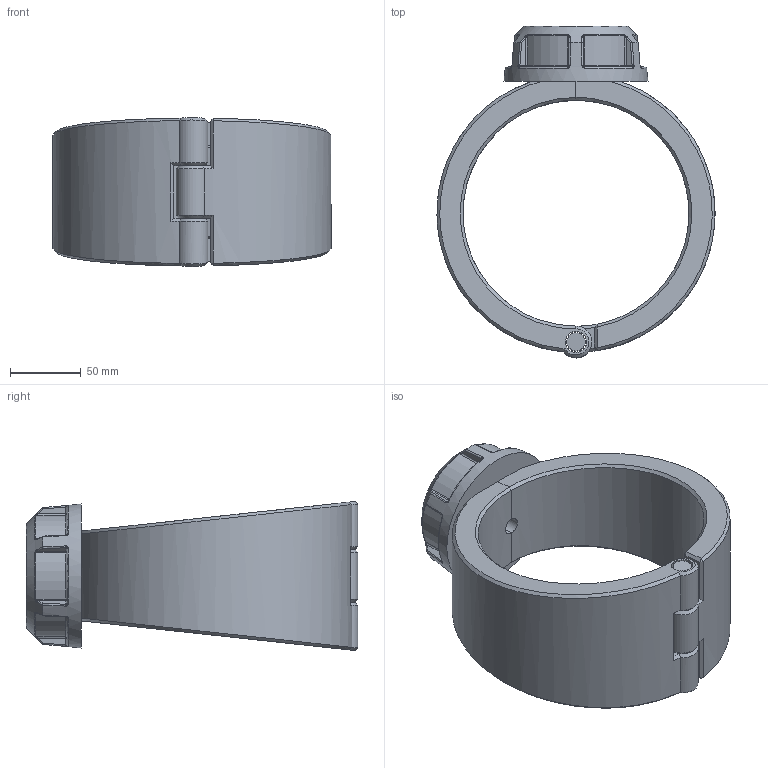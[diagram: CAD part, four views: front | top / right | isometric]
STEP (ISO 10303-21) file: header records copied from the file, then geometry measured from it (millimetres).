
FILE_DESCRIPTION(/* description */ ('Plassadle Threaded 160x3/4'''''),/* implementation_level */ '2;1');
FILE_NAME(/* name */ 'C:\Users\comp2\Dropbox\99-16-3568-Processing\Mechanical Fittings\16300\stp\163000160007.stp',/* time_stamp */ '2022-02-03T11:51:17+00:00',/* author */ ('comp2'),/* organization */ (''),/* preprocessor_version */ 'ST-DEVELOPER v17.2',/* originating_system */ 'Autodesk Inventor 2019',/* authorisation */ '');
FILE_SCHEMA (('AUTOMOTIVE_DESIGN { 1 0 10303 214 3 1 1 }'));
Length unit declared in the file: millimetre
Products named in the file (1): 163000160007
Bounding box: 196.98 x 235 x 105.57 mm (x, y, z)
Volume: 1081320.7 mm3; surface area: 155365.4 mm2
Topology: 4 solids, 4 shells, 203 faces, 486 edges, 293 vertices
Faces by surface type: bspline 58, plane 53, cylinder 47, torus 18, cone 15, sphere 12
Full cylindrical faces by diameter (mm): 12.059 x1, 13.04 x1, 15.04 x3, 20.499 x1, 24.117 x1, 36.175 x1
Entity records: 8256 total; most frequent: CARTESIAN_POINT 3909, ORIENTED_EDGE 972, DIRECTION 781, EDGE_CURVE 486, AXIS2_PLACEMENT_3D 330, VERTEX_POINT 293, EDGE_LOOP 213, FACE_OUTER_BOUND 203
